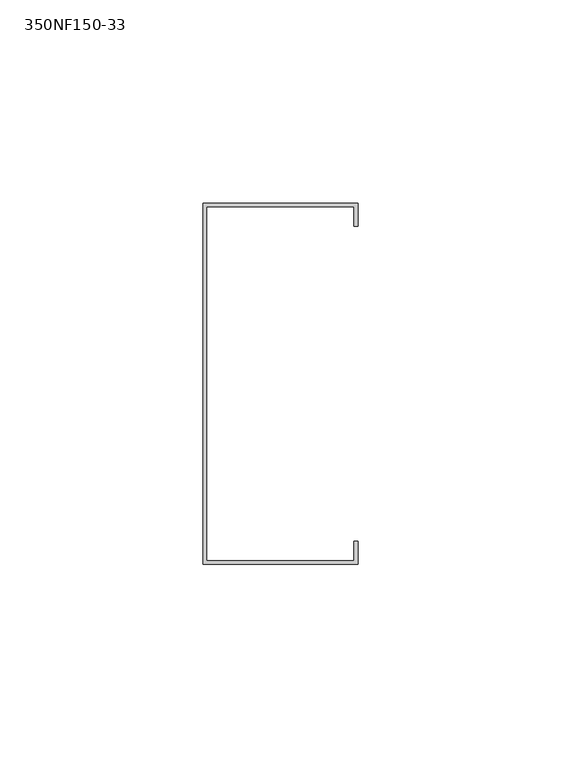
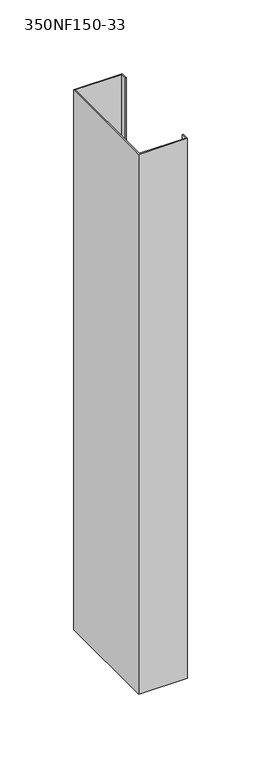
"""IFC4 building model written with IfcOpenShell, lengths in millimetres: column geometry, BIMSF-SSMA-S-Column : 350NF150-33."""

from ifc_helpers import new_model, si_unit, frame, origin, place, context, project, spatial, polyline, outline, extrude, source, transform, mapped, element, save


def column_350nf150_33_2ad03762(model_context):
    return source(origin(), model_context, "Body", "SweptSolid", [
        extrude(outline(polyline([(-11.9977877, -55.1871249), (-11.9977877, 33.7128751), (26.1022123, 33.7128751), (26.1022123, 28.0553593), (25.2198965, 28.0553593), (25.2198965, 32.8305593), (-11.115472, 32.8305593), (-11.115472, -54.3048092), (25.2198965, -54.3048092), (25.2198965, -49.5296092), (26.1022123, -49.5296092), (26.1022123, -55.1871249), (-11.9977877, -55.1871249)])), frame((0.0, 0.0, 3979.1679688), z_axis=(0.0, 0.0, 1.0), x_axis=(1.0, 0.0, 0.0)), (0.0, 0.0, 1.0), 448.3659281),
    ])


if __name__ == "__main__":
    model = new_model("IFC4")
    model_context = context("Model", 3, world=origin())
    ifc_project = project(units=[si_unit("LENGTHUNIT", "METRE", prefix="MILLI")], contexts=[model_context])
    site = spatial("IfcSite", under=ifc_project)
    building = spatial("IfcBuilding", under=site)
    placement = place(None, origin())
    column_350nf150_33_shape = column_350nf150_33_2ad03762(model_context)
    element("IfcColumn", 1, ObjectType="BIMSF-SSMA-S-Column : 350NF150-33", at=placement, inside=building, context=model_context, shape_type="MappedRepresentation", body=[
        mapped(column_350nf150_33_shape, transform((0.0, 0.0, 0.0), x_axis=(1.0, 0.0, 0.0), y_axis=(0.0, 1.0, 0.0), z_axis=(0.0, 0.0, 1.0))),
    ])
    save(model, "model.ifc")
